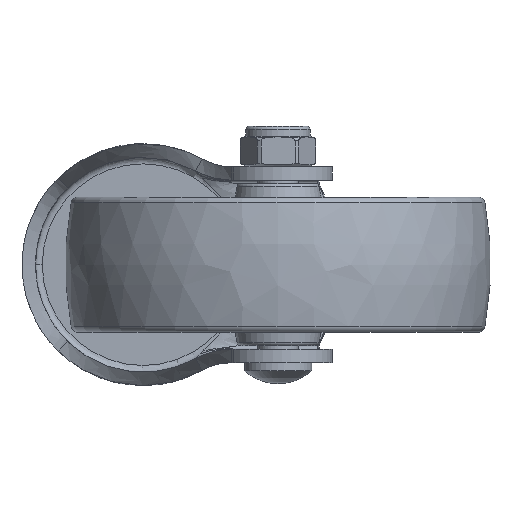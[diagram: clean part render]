
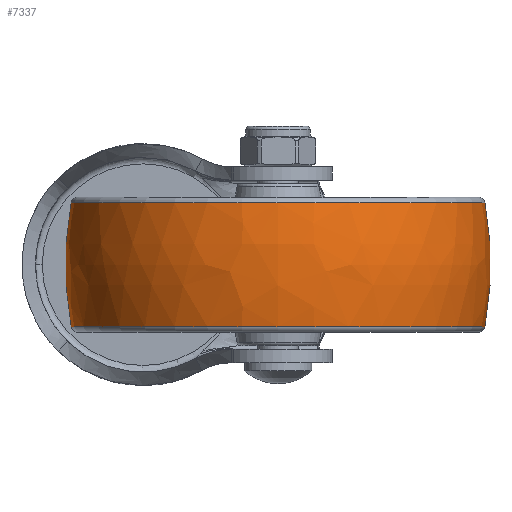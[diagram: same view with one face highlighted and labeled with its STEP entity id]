
A CAD part, front view. The second image highlights one B-rep face of the part: STEP entity #7337.
In plain terms, the highlighted free-form (B-spline) face has degree [3, 3] with [7, 4] control points.
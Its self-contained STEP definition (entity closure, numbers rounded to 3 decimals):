
#6953=CARTESIAN_POINT('',(0.,-18.5,0.));
#6954=DIRECTION('',(0.,0.,1.));
#6955=DIRECTION('',(0.184,0.983,0.));
#6956=AXIS2_PLACEMENT_3D('',#6953,#6954,#6955);
#6958=CARTESIAN_POINT('',(0.,18.5,0.));
#6959=DIRECTION('',(0.,0.,-1.));
#6960=DIRECTION('',(0.184,-0.983,0.));
#6961=AXIS2_PLACEMENT_3D('',#6958,#6959,#6960);
#6963=CARTESIAN_POINT('',(9.184,0.,0.));
#6964=DIRECTION('',(-1.,0.,0.));
#6965=DIRECTION('',(0.,1.,0.));
#6966=AXIS2_PLACEMENT_3D('',#6963,#6964,#6965);
#6988=CARTESIAN_POINT('',(-9.184,0.,0.));
#6989=DIRECTION('',(-1.,0.,0.));
#6990=DIRECTION('',(0.,1.,0.));
#6991=AXIS2_PLACEMENT_3D('',#6988,#6989,#6990);
#7082=CARTESIAN_POINT('',(9.184,30.649,0.));
#7084=VERTEX_POINT('',#7082);
#7085=CARTESIAN_POINT('',(-9.184,30.649,0.));
#7086=VERTEX_POINT('',#7085);
#7110=CARTESIAN_POINT('',(9.184,-30.649,0.));
#7112=VERTEX_POINT('',#7110);
#7113=CARTESIAN_POINT('',(-9.184,-30.649,0.));
#7114=VERTEX_POINT('',#7113);
#7299=CARTESIAN_POINT('',(-9.547,-30.52,
1.92));
#7300=CARTESIAN_POINT('',(-3.222,-31.748,
1.997));
#7301=CARTESIAN_POINT('',(3.222,-31.748,1.997));
#7302=CARTESIAN_POINT('',(9.547,-30.52,1.92));
#7303=CARTESIAN_POINT('',(-9.547,-31.701,
-16.862));
#7304=CARTESIAN_POINT('',(-3.222,-32.977,
-17.54));
#7305=CARTESIAN_POINT('',(3.222,-32.977,
-17.54));
#7306=CARTESIAN_POINT('',(9.547,-31.701,
-16.862));
#7307=CARTESIAN_POINT('',(-9.547,-18.819,
-30.58));
#7308=CARTESIAN_POINT('',(-3.222,-19.576,
-31.81));
#7309=CARTESIAN_POINT('',(3.222,-19.576,
-31.81));
#7310=CARTESIAN_POINT('',(9.547,-18.819,
-30.58));
#7311=CARTESIAN_POINT('',(-9.547,0.,-30.58));
#7312=CARTESIAN_POINT('',(-3.222,0.,
-31.81));
#7313=CARTESIAN_POINT('',(3.222,0.,
-31.81));
#7314=CARTESIAN_POINT('',(9.547,0.,
-30.58));
#7315=CARTESIAN_POINT('',(-9.547,18.819,
-30.58));
#7316=CARTESIAN_POINT('',(-3.222,19.576,
-31.81));
#7317=CARTESIAN_POINT('',(3.222,19.576,-31.81));
#7318=CARTESIAN_POINT('',(9.547,18.819,-30.58));
#7319=CARTESIAN_POINT('',(-9.547,31.701,
-16.862));
#7320=CARTESIAN_POINT('',(-3.222,32.977,
-17.54));
#7321=CARTESIAN_POINT('',(3.222,32.977,-17.54));
#7322=CARTESIAN_POINT('',(9.547,31.701,-16.862));
#7323=CARTESIAN_POINT('',(-9.547,30.52,1.92));
#7324=CARTESIAN_POINT('',(-3.222,31.748,1.997));
#7325=CARTESIAN_POINT('',(3.222,31.748,1.997));
#7326=CARTESIAN_POINT('',(9.547,30.52,1.92));
#7327=(BOUNDED_SURFACE()B_SPLINE_SURFACE(3,3,((#7299,#7300,#7301,#7302),(#7303,
#7304,#7305,#7306),(#7307,#7308,#7309,#7310),(#7311,#7312,#7313,#7314),(#7315,
#7316,#7317,#7318),(#7319,#7320,#7321,#7322),(#7323,#7324,#7325,#7326)),
.UNSPECIFIED.,.F.,.F.,.F.)B_SPLINE_SURFACE_WITH_KNOTS((4,3,4),(4,4),(0.,1.,
2.),(0.,1.),.UNSPECIFIED.)GEOMETRIC_REPRESENTATION_ITEM()RATIONAL_B_SPLINE_SURFACE(((1.198,1.184,1.184,1.198),(
0.946,0.935,0.935,0.946),(
0.946,0.935,0.935,0.946),(
1.198,1.184,1.184,1.198),(
0.946,0.935,0.935,0.946),(
0.946,0.935,0.935,0.946),(
1.198,1.184,1.184,1.198)))REPRESENTATION_ITEM('')SURFACE());
#7329=ORIENTED_EDGE('',*,*,#7328,.T.);
#7331=ORIENTED_EDGE('',*,*,#7330,.T.);
#7333=ORIENTED_EDGE('',*,*,#7332,.F.);
#7334=ORIENTED_EDGE('',*,*,#7292,.F.);
#7335=EDGE_LOOP('',(#7329,#7331,#7333,#7334));
#7336=FACE_OUTER_BOUND('',#7335,.F.);
#6957=CIRCLE('',#6956,50.);
#6962=CIRCLE('',#6961,50.);
#6967=CIRCLE('',#6966,30.649);
#6992=CIRCLE('',#6991,30.649);
#7292=EDGE_CURVE('',#7084,#7112,#6967,.T.);
#7328=EDGE_CURVE('',#7084,#7086,#6957,.T.);
#7330=EDGE_CURVE('',#7086,#7114,#6992,.T.);
#7332=EDGE_CURVE('',#7112,#7114,#6962,.T.);
#7337=ADVANCED_FACE('',(#7336),#7327,.T.);
